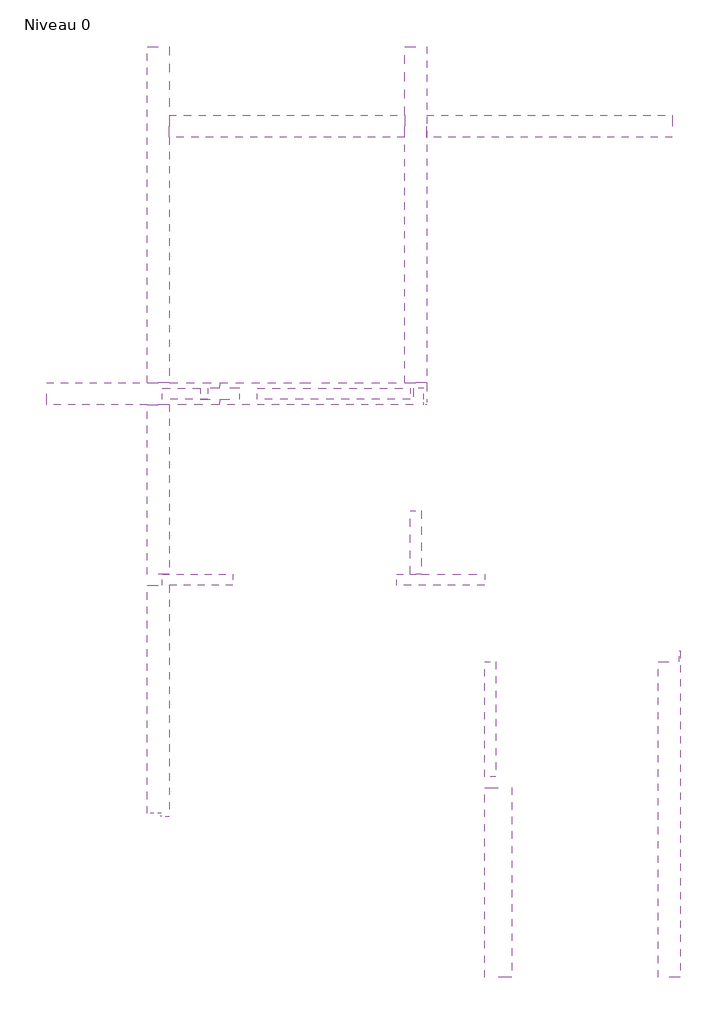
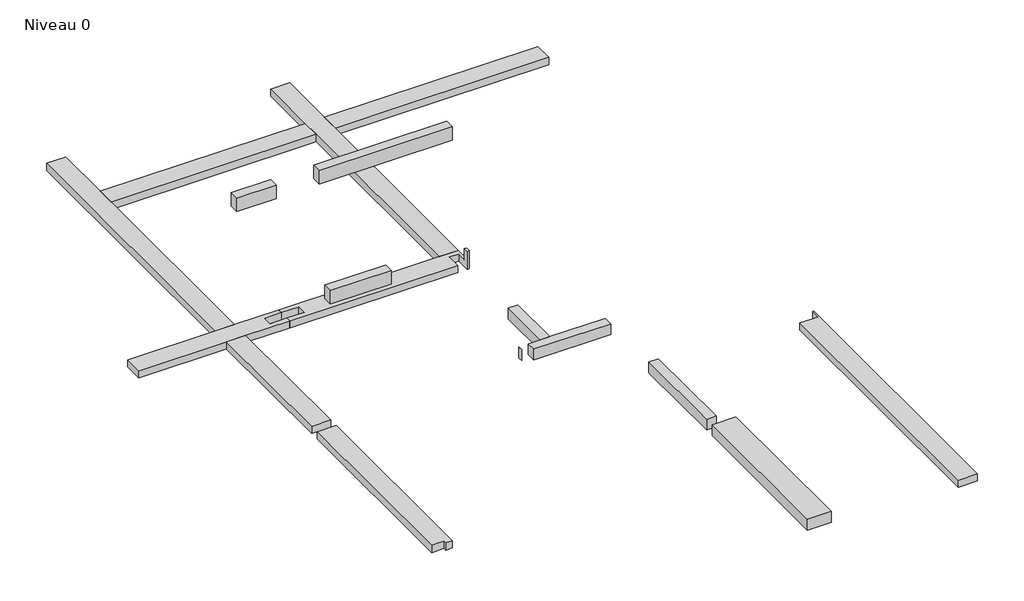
# One storey: 16 beams.
"""IFC4 building model written with IfcOpenShell, lengths in millimetres."""

import ifcopenshell
import ifcopenshell.guid

model = None  # the IFC model being written
_history = None  # IfcOwnerHistory: only IFC2X3 demands one
_inside = {}  # id of a spatial element -> (the spatial element, [elements in it])
_under = {}  # id of a project, library or spatial element -> (it, [spatial elements below it])
_declared = {}  # id of a project -> (the project, [libraries it declares])
_typed = {}  # id of a type object -> (the type object, [elements of that type])
_made_of = {}  # id of a material, layer set ... -> (it, [elements and type objects made of it])


def new_model(schema):
    """Start an empty IFC model of exactly this schema.

    Asked for "IFC4X3", IfcOpenShell would pick the latest addendum, in which some entities
    have other attributes; the version numbers below select the first issue.
    IFC2X3 requires an IfcOwnerHistory on every rooted entity: one is made here for all.
    """
    global model, _history
    if schema == "IFC4X3":
        model = ifcopenshell.file(schema_version=(4, 3, 0, 0))
    else:
        model = ifcopenshell.file(schema=schema)
    _inside.clear()
    _under.clear()
    _declared.clear()
    _typed.clear()
    _made_of.clear()
    _history = None
    if model.schema == "IFC2X3":
        org = make("IfcOrganization", Name="unknown")
        user = make(
            "IfcPersonAndOrganization",
            ThePerson=make("IfcPerson", FamilyName="unknown"),
            TheOrganization=org,
        )
        app = make(
            "IfcApplication",
            ApplicationDeveloper=org,
            Version="unknown",
            ApplicationFullName="unknown",
            ApplicationIdentifier="unknown",
        )
        _history = make(
            "IfcOwnerHistory",
            OwningUser=user,
            OwningApplication=app,
            ChangeAction="ADDED",
            CreationDate=0,
        )
    return model


def make(cls, **values):
    """One entity of the class cls with the attributes given. An attribute that is None is left unset."""
    return model.create_entity(
        cls, **{name: value for name, value in values.items() if value is not None}
    )


def rooted(cls, **values):
    """An entity with a GlobalId (a new one), such as an element, a storey or a relation."""
    return make(cls, GlobalId=ifcopenshell.guid.new(), OwnerHistory=_history, **values)


def si_unit(unit_type, name, prefix=None):
    """IfcSIUnit, for example si_unit("LENGTHUNIT", "METRE", prefix="MILLI")."""
    return make("IfcSIUnit", UnitType=unit_type, Prefix=prefix, Name=name)


def assignment(units):
    """IfcUnitAssignment: the units of a project."""
    return None if units is None else make("IfcUnitAssignment", Units=units)


def point(xyz):
    """IfcCartesianPoint."""
    return None if xyz is None else make("IfcCartesianPoint", Coordinates=xyz)


def direction(xyz):
    """IfcDirection."""
    return None if xyz is None else make("IfcDirection", DirectionRatios=xyz)


def frame(location, z_axis=None, x_axis=None):
    """IfcAxis2Placement3D, a coordinate frame: its origin and axes. An axis left out is left unset."""
    return make(
        "IfcAxis2Placement3D",
        Location=point(location),
        Axis=direction(z_axis),
        RefDirection=direction(x_axis),
    )


def origin():
    """The frame at (0, 0, 0) with its axes left unset."""
    return frame((0.0, 0.0, 0.0))


def place(relative_to, where):
    """IfcLocalPlacement: puts the frame where relative to a parent placement (None: the world)."""
    return make(
        "IfcLocalPlacement", PlacementRelTo=relative_to, RelativePlacement=where
    )


def context(
    kind, dimensions, precision=None, world=None, true_north=None, identifier=None
):
    """IfcGeometricRepresentationContext, for example the 3D "Model" context."""
    return make(
        "IfcGeometricRepresentationContext",
        ContextIdentifier=identifier,
        ContextType=kind,
        CoordinateSpaceDimension=dimensions,
        Precision=precision,
        WorldCoordinateSystem=world,
        TrueNorth=true_north,
    )


def project(units=None, contexts=None):
    """IfcProject with its units and contexts."""
    return rooted(
        "IfcProject",
        Name="project",
        RepresentationContexts=contexts,
        UnitsInContext=assignment(units),
    )


def spatial(cls, under=None, at=None, **own):
    """A site, building, storey or space (cls), placed at a placement, below another one or the project."""
    s = rooted(cls, ObjectPlacement=at, **own)
    if under is not None:
        _under.setdefault(under.id(), (under, []))[1].append(s)
    return s


def polyline(points):
    """IfcPolyline through the points."""
    return make("IfcPolyline", Points=[point(p) for p in points])


def outline(outer, holes=None, kind="AREA"):
    """IfcArbitraryClosedProfileDef: a profile drawn as a closed curve; with holes, ...WithVoids."""
    if holes is None:
        return make("IfcArbitraryClosedProfileDef", ProfileType=kind, OuterCurve=outer)
    return make(
        "IfcArbitraryProfileDefWithVoids",
        ProfileType=kind,
        OuterCurve=outer,
        InnerCurves=holes,
    )


def extrude(swept, where, along, depth):
    """IfcExtrudedAreaSolid: the profile swept, set in the frame where, extruded along a direction by depth."""
    return make(
        "IfcExtrudedAreaSolid",
        SweptArea=swept,
        Position=where,
        ExtrudedDirection=direction(along),
        Depth=depth,
    )


def faces_of(points, faces, orient=None, outer=None):
    """IfcFace entities. A face is a list of loops; a loop is a list of indices into points, from 0.

    orient and outer hold one flag for each loop. By default every Orientation is true, the
    first loop of a face is its IfcFaceOuterBound and the others are IfcFaceBound.
    """
    made = []
    for i, loops in enumerate(faces):
        bounds = []
        for j, loop in enumerate(loops):
            is_outer = j == 0 if outer is None else outer[i][j]
            bounds.append(
                make(
                    "IfcFaceOuterBound" if is_outer else "IfcFaceBound",
                    Bound=make("IfcPolyLoop", Polygon=[points[k] for k in loop]),
                    Orientation=True if orient is None else orient[i][j],
                )
            )
        made.append(make("IfcFace", Bounds=bounds))
    return made


def faceted_brep(points, faces, orient=None, outer=None, voids=None):
    """IfcFacetedBrep: a solid bounded by flat faces; with voids (closed shells), ...WithVoids."""
    shared = [point(p) for p in points]
    hull = make("IfcClosedShell", CfsFaces=faces_of(shared, faces, orient, outer))
    if voids is None:
        return make("IfcFacetedBrep", Outer=hull)
    return make(
        "IfcFacetedBrepWithVoids",
        Outer=hull,
        Voids=[
            make(cls, CfsFaces=faces_of(shared, fs, o, b)) for cls, fs, o, b in voids
        ],
    )


def shape(context_of_items, identifier, shape_type, items):
    """IfcShapeRepresentation: the items that make up one representation, for example the "Body"."""
    return make(
        "IfcShapeRepresentation",
        ContextOfItems=context_of_items,
        RepresentationIdentifier=identifier,
        RepresentationType=shape_type,
        Items=items,
    )


def made_of(thing, what):
    """Note that an element or type object is made of a material, layer set ...; save() writes the relation."""
    if what is not None:
        _made_of.setdefault(what.id(), (what, []))[1].append(thing)
    return thing


def element(
    cls,
    number,
    at=None,
    inside=None,
    cuts=None,
    type_object=None,
    material=None,
    context=None,
    identifier="Body",
    shape_type=None,
    held_by="IfcProductDefinitionShape",
    body=None,
    shapes=None,
    **own,
):
    """One element of the class cls, such as IfcWall. Its Tag is "e" and its number.

    at: its placement. inside: the storey or other place that contains it. cuts: it is an
    opening in that element (IfcRelVoidsElement). A single representation is given by context,
    identifier, shape_type and body (its items); several are given by shapes. held_by: the class
    of the entity that holds the representations. save() writes the other relations.
    """
    e = rooted(cls, Tag="e%d" % number, ObjectPlacement=at, **own)
    if body is not None:
        shapes = [shape(context, identifier, shape_type, body)]
    if shapes is not None:
        e.Representation = make(held_by, Representations=shapes)
    if inside is not None:
        _inside.setdefault(inside.id(), (inside, []))[1].append(e)
    if cuts is not None:
        rooted(
            "IfcRelVoidsElement", RelatingBuildingElement=cuts, RelatedOpeningElement=e
        )
    if type_object is not None:
        _typed.setdefault(type_object.id(), (type_object, []))[1].append(e)
    return made_of(e, material)


def aggregate(whole, parts):
    """IfcRelAggregates: a whole, such as a stair, and the parts it consists of."""
    return rooted("IfcRelAggregates", RelatingObject=whole, RelatedObjects=parts)


def save(model, path):
    """Write the relations noted so far, then the file.

    IfcRelAggregates (storeys below a building ...), IfcRelContainedInSpatialStructure (elements
    in a storey), IfcRelDefinesByType, IfcRelAssociatesMaterial and IfcRelDeclares: one each for
    every whole, place, type object, material and project.
    """
    for whole, parts in _under.values():
        aggregate(whole, parts)
    for where, things in _inside.values():
        rooted(
            "IfcRelContainedInSpatialStructure",
            RelatedElements=things,
            RelatingStructure=where,
        )
    for kind, things in _typed.values():
        rooted("IfcRelDefinesByType", RelatedObjects=things, RelatingType=kind)
    for what, things in _made_of.values():
        rooted("IfcRelAssociatesMaterial", RelatedObjects=things, RelatingMaterial=what)
    for by, libraries in _declared.values():
        rooted("IfcRelDeclares", RelatingContext=by, RelatedDefinitions=libraries)
    model.write(path)


model = new_model("IFC4")

# Units and contexts
model_context = context("Model", 3, world=origin())
ifc_project = project(units=[si_unit("LENGTHUNIT", "METRE", prefix="MILLI")], contexts=[model_context])

# Site, building, storey
site = spatial("IfcSite", under=ifc_project)
building = spatial("IfcBuilding", under=site)
storey = spatial("IfcBuildingStorey", under=building, Name="Niveau 0", Elevation=-70.0)

# Beams
placement = place(None, origin())
element("IfcBeam", 1, ObjectType="Béton - Poutre rectangulaire : 200 x 240", at=placement, inside=storey, context=model_context, shape_type="Brep", body=[
    faceted_brep([(-4257.691895, -124.0968949, 17480.0), (-4257.691895, -324.0968949, 17480.0), (-2647.6920341, -324.0968949, 17480.0), (-2647.6920341, -124.0968949, 17480.0), (-3807.6828669, -124.0968949, 17480.0), (-4007.6828669, -124.0968949, 17480.0), (-2647.6920341, -324.0968949, 17240.0), (-4257.691895, -324.0968949, 17240.0), (-4257.691895, -124.0968949, 17240.0), (-4007.6828669, -124.0968949, 17240.0), (-3807.6828669, -124.0968949, 17240.0), (-2647.6920341, -124.0968949, 17240.0)], [[[0, 1, 2, 3, 4, 5]], [[6, 2, 1, 7]], [[7, 8, 9, 10, 11, 6]], [[8, 0, 5, 4, 3, 11, 10, 9]], [[0, 8, 7, 1]], [[3, 2, 6, 11]]]),
    faceted_brep([(-4460.0848034, -124.0968949, 17480.0), (-4460.0848034, -124.0968949, 17240.0), (-4460.0848034, -224.0968949, 17240.0), (-4460.0848034, -224.0968949, 17480.0), (-4457.691895, -224.0968949, 17480.0), (-4457.691895, -224.0968949, 17240.0), (-4457.691895, -124.0968949, 17480.0), (-4457.691895, -124.0968949, 17240.0)], [[[0, 1, 2, 3]], [[4, 3, 2, 5]], [[6, 4, 5, 7]], [[0, 3, 4, 6]], [[2, 1, 7, 5]], [[1, 0, 6, 7]]]),
])
element("IfcBeam", 2, ObjectType="Béton - Poutre rectangulaire : 200 x 240", at=placement, inside=storey, context=model_context, shape_type="SweptSolid", body=[
    extrude(outline(polyline([(-4007.6828669, 1035.9031051), (-3807.6828669, 1035.9031051), (-3807.6828669, -124.0968949), (-4007.6828669, -124.0968949), (-4007.6828669, 1035.9031051)])), frame((0.0, 0.0, 17240.0), z_axis=(0.0, 0.0, 1.0), x_axis=(1.0, 0.0, 0.0)), (0.0, 0.0, 1.0), 240.0),
])
element("IfcBeam", 3, ObjectType="Béton - Poutre rectangulaire : 200 x 240", at=placement, inside=storey, context=model_context, shape_type="SweptSolid", body=[
    extrude(outline(polyline([(-2447.6920341, -3824.0968949), (-2647.6920341, -3824.0968949), (-2647.6920341, -1724.0968949), (-2447.6920341, -1724.0968949), (-2447.6920341, -3824.0968949)])), frame((0.0, 0.0, 17240.0), z_axis=(0.0, 0.0, 1.0), x_axis=(1.0, 0.0, 0.0)), (0.0, 0.0, 1.0), 240.0),
])
element("IfcBeam", 4, ObjectType="Béton - Poutre rectangulaire : 200 x 300", at=placement, inside=storey, context=model_context, shape_type="SweptSolid", body=[
    extrude(outline(polyline([(-6807.6920341, 3075.9031051), (-6807.6920341, 3275.9031051), (-4007.6828669, 3275.9031051), (-4007.6828669, 3075.9031051), (-6807.6920341, 3075.9031051)])), frame((0.0, 0.0, 19980.0), z_axis=(0.0, 0.0, 1.0), x_axis=(1.0, 0.0, 0.0)), (0.0, 0.0, 1.0), 300.0),
])
element("IfcBeam", 5, ObjectType="Béton - Poutre rectangulaire : 200 x 300", at=placement, inside=storey, context=model_context, shape_type="SweptSolid", body=[
    extrude(outline(polyline([(-7707.6920341, 3275.9031051), (-7707.6920341, 3075.9031051), (-8537.6920341, 3075.9031051), (-8537.6920341, 3275.9031051), (-7707.6920341, 3275.9031051)])), frame((0.0, 0.0, 19980.0), z_axis=(0.0, 0.0, 1.0), x_axis=(1.0, 0.0, 0.0)), (0.0, 0.0, 1.0), 300.0),
])
element("IfcBeam", 6, ObjectType="Béton - Poutre rectangulaire : 200 x 300", at=placement, inside=storey, context=model_context, shape_type="SweptSolid", body=[
    extrude(outline(polyline([(-7257.6920341, -124.0968949), (-7257.6920341, -324.0968949), (-8537.6920341, -324.0968949), (-8537.6920341, -124.0968949), (-7257.6920341, -124.0968949)])), frame((0.0, 0.0, 19980.0), z_axis=(0.0, 0.0, 1.0), x_axis=(1.0, 0.0, 0.0)), (0.0, 0.0, 1.0), 300.0),
])
element("IfcBeam", 7, ObjectType="Béton - Poutre rectangulaire : 400 x 400", at=placement, inside=storey, context=model_context, shape_type="Brep", body=[
    faceted_brep([(-3757.691895, 2975.9031051, 17480.0), (-3707.6828669, 2975.9031051, 17480.0), (-3707.6828669, 3075.9030834, 17480.0), (-3757.691895, 3075.9030834, 17480.0), (-3707.6828669, 2975.9031051, 17080.0), (-3757.691895, 2975.9031051, 17080.0), (-7127.691895, 3075.9031051, 17080.0), (-7127.691895, 3275.9031051, 17080.0), (-7487.691895, 3275.9031051, 17080.0), (-7487.691895, 3375.9031051, 17080.0), (-4107.6828669, 3375.9031051, 17080.0), (-3707.6828669, 3375.9031051, 17080.0), (-3757.691895, 3275.9031051, 17080.0), (-3957.691895, 3275.9031051, 17080.0), (-3957.691895, 2975.9031051, 17080.0), (-7487.691895, 2975.9031051, 17080.0), (-7487.691895, 3075.9031051, 17080.0), (-7487.691895, 3375.9031051, 17240.0), (-6027.691895, 3375.9031051, 17240.0), (-5627.691895, 3375.9031051, 17240.0), (-4107.6828669, 3375.9031051, 17240.0), (-3707.6828669, 3375.9031051, 17240.0), (-7127.691895, 3075.9031051, 17240.0), (-7127.691895, 3275.9031051, 17240.0), (-7487.691895, 3275.9031051, 17240.0), (-7487.691895, 3075.9031051, 17240.0), (-3957.691895, 3275.9031051, 17240.0), (-3957.691895, 2975.9031051, 17240.0), (-3757.691895, 3275.9031051, 17240.0), (-3757.691895, 3075.9030834, 17240.0), (-3707.6828669, 3075.9030834, 17240.0), (-7487.691895, 2975.9031051, 17240.0)], [[[0, 1, 2, 3]], [[4, 1, 0, 5]], [[6, 7, 8, 9, 10, 11, 4, 5, 12, 13, 14, 15, 16]], [[11, 10, 9, 17, 18, 19, 20, 21]], [[7, 6, 22, 23]], [[8, 7, 23, 24]], [[6, 16, 25, 22]], [[14, 13, 26, 27]], [[13, 12, 28, 26]], [[29, 30, 21, 20, 19, 18, 17, 24, 23, 22, 25, 31, 27, 26, 28]], [[9, 8, 24, 17]], [[1, 4, 11, 21, 30, 2]], [[16, 15, 31, 25]], [[5, 0, 3, 29, 28, 12]], [[15, 14, 27, 31]], [[30, 29, 3, 2]]]),
])
element("IfcBeam", 8, ObjectType="Béton - Poutre rectangulaire : 400 x 400", at=placement, inside=storey, context=model_context, shape_type="Brep", body=[
    faceted_brep([(-7487.691895, 3375.9031051, 17080.0), (-8417.6920341, 3375.9031051, 17080.0), (-8817.6920341, 3375.9031051, 17080.0), (-10657.691895, 3375.9031051, 17080.0), (-10657.691895, 3375.9031051, 17240.0), (-8817.6920341, 3375.9031051, 17240.0), (-8417.6920341, 3375.9031051, 17240.0), (-7487.691895, 3375.9031051, 17240.0), (-7487.691895, 3275.9031051, 17080.0), (-7847.691895, 3275.9031051, 17080.0), (-7847.691895, 3075.9031051, 17080.0), (-7487.691895, 3075.9031051, 17080.0), (-7487.691895, 2975.9031051, 17080.0), (-8417.6920341, 2975.9031051, 17080.0), (-8817.6920341, 2975.9031051, 17080.0), (-10657.691895, 2975.9031051, 17080.0), (-7487.691895, 2975.9031051, 17240.0), (-8417.6920341, 2975.9031051, 17240.0), (-8817.6920341, 2975.9031051, 17240.0), (-10657.691895, 2975.9031051, 17240.0), (-7487.691895, 3075.9031051, 17240.0), (-7487.691895, 3275.9031051, 17240.0), (-7847.691895, 3275.9031051, 17240.0), (-7847.691895, 3075.9031051, 17240.0)], [[[0, 1, 2, 3, 4, 5, 6, 7]], [[0, 8, 9, 10, 11, 12, 13, 14, 15, 3, 2, 1]], [[15, 14, 13, 12, 16, 17, 18, 19]], [[12, 11, 20, 16]], [[9, 8, 21, 22]], [[10, 9, 22, 23]], [[11, 10, 23, 20]], [[8, 0, 7, 21]], [[4, 3, 15, 19]], [[4, 19, 18, 17, 16, 20, 23, 22, 21, 7, 6, 5]]]),
])
element("IfcBeam", 9, ObjectType="Béton - Poutre rectangulaire : 400 x 400", at=placement, inside=storey, context=model_context, shape_type="Brep", body=[
    faceted_brep([(-8817.6920341, -324.0968949, 17240.0), (-8817.6920341, -324.0968949, 17080.0), (-8817.6920341, -4494.0969166, 17080.0), (-8817.6920341, -4494.0969166, 17240.0), (-8417.6920341, -324.0968949, 17080.0), (-8417.6920341, -4554.0969166, 17080.0), (-8557.691895, -4554.0969166, 17080.0), (-8557.691895, -4494.0969166, 17080.0), (-8417.6920341, -324.0968949, 17240.0), (-8417.6920341, -4554.0969166, 17240.0), (-8557.691895, -4554.0969166, 17240.0), (-8697.6920341, -4494.0969166, 17240.0), (-8557.691895, -4494.0969166, 17240.0)], [[[0, 1, 2, 3]], [[4, 5, 6, 7, 2, 1]], [[5, 4, 8, 9]], [[5, 9, 10, 6]], [[1, 0, 8, 4]], [[9, 8, 0, 3, 11, 12, 10]], [[7, 12, 11, 3, 2]], [[12, 7, 6, 10]]]),
])
element("IfcBeam", 10, ObjectType="Béton - Poutre rectangulaire : 400 x 400", at=placement, inside=storey, context=model_context, shape_type="SweptSolid", body=[
    extrude(outline(polyline([(-8417.6920341, -124.0968949), (-8817.6920341, -124.0968949), (-8817.6920341, 2975.9031051), (-8417.6920341, 2975.9031051), (-8417.6920341, -124.0968949)])), frame((0.0, 0.0, 17080.0), z_axis=(0.0, 0.0, 1.0), x_axis=(1.0, 0.0, 0.0)), (0.0, 0.0, 1.0), 160.0),
])
element("IfcBeam", 11, ObjectType="Béton - Poutre rectangulaire : 400 x 400", at=placement, inside=storey, context=model_context, shape_type="Brep", body=[
    faceted_brep([(-8417.6920341, 9525.9030834, 17080.0), (-8417.6920341, 9525.9030834, 17240.0), (-8417.6920341, 8265.9030834, 17240.0), (-8417.6920341, 7865.9030834, 17240.0), (-8417.6920341, 3375.9031051, 17240.0), (-8417.6920341, 3375.9031051, 17080.0), (-8417.6920341, 7865.9030834, 17080.0), (-8417.6920341, 8265.9030834, 17080.0), (-8817.6920341, 9525.9030834, 17080.0), (-8817.6920341, 3375.9031051, 17080.0), (-8817.6920341, 9525.9030834, 17240.0), (-8817.6920341, 3375.9031051, 17240.0)], [[[0, 1, 2, 3, 4, 5, 6, 7]], [[8, 0, 7, 6, 5, 9]], [[10, 8, 9, 11]], [[1, 0, 8, 10]], [[4, 11, 9, 5]], [[10, 11, 4, 3, 2, 1]]]),
])
element("IfcBeam", 12, ObjectType="Béton - Poutre rectangulaire : 400 x 400", at=placement, inside=storey, context=model_context, shape_type="Brep", body=[
    faceted_brep([(-3707.6828669, 9525.9030834, 17080.0), (-3707.6828669, 9525.9030834, 17240.0), (-3707.6828669, 3375.9031051, 17240.0), (-3707.6828669, 3375.9031051, 17080.0), (-4107.6828669, 9525.9030834, 17080.0), (-4107.6828669, 3375.9031051, 17080.0), (-4107.6828669, 7865.9030834, 17080.0), (-4107.6828669, 8265.9030834, 17080.0), (-4107.6828669, 9525.9030834, 17240.0), (-4107.6828669, 3375.9031051, 17240.0), (-4107.6828669, 7865.9030834, 17240.0), (-4107.6828669, 8265.9030834, 17240.0)], [[[0, 1, 2, 3]], [[4, 0, 3, 5, 6, 7]], [[8, 4, 7, 6, 5, 9, 10, 11]], [[1, 0, 4, 8]], [[1, 8, 11, 10, 9, 2]], [[3, 2, 9, 5]]]),
])
element("IfcBeam", 13, ObjectType="Béton - Poutre rectangulaire : 400 x 400", at=placement, inside=storey, context=model_context, shape_type="SweptSolid", body=[
    extrude(outline(polyline([(-4107.6828669, 8265.9030834), (-4107.6828669, 7865.9030834), (-8417.6920341, 7865.9030834), (-8417.6920341, 8265.9030834), (-4107.6828669, 8265.9030834)])), frame((0.0, 0.0, 17080.0), z_axis=(0.0, 0.0, 1.0), x_axis=(1.0, 0.0, 0.0)), (0.0, 0.0, 1.0), 160.0),
])
element("IfcBeam", 14, ObjectType="Béton - Poutre rectangulaire : 400 x 400", at=placement, inside=storey, context=model_context, shape_type="SweptSolid", body=[
    extrude(outline(polyline([(782.3079659, 7865.9030834), (-3707.6828669, 7865.9030834), (-3707.6828669, 8265.9030834), (782.3079659, 8265.9030834), (782.3079659, 7865.9030834)])), frame((0.0, 0.0, 17080.0), z_axis=(0.0, 0.0, 1.0), x_axis=(1.0, 0.0, 0.0)), (0.0, 0.0, 1.0), 160.0),
])
element("IfcBeam", 15, ObjectType="Béton - Poutre rectangulaire : 400 x 400", at=placement, inside=storey, context=model_context, shape_type="SweptSolid", body=[
    extrude(outline(polyline([(527.3079659, -1724.0968949), (912.3079659, -1724.0968949), (912.3079659, -1524.0968949), (927.3079659, -1524.0968949), (927.3079659, -7494.0969166), (527.3079659, -7494.0969166), (527.3079659, -1724.0968949)])), frame((0.0, 0.0, 17080.0), z_axis=(0.0, 0.0, 1.0), x_axis=(1.0, 0.0, 0.0)), (0.0, 0.0, 1.0), 160.0),
])
element("IfcBeam", 16, ObjectType="Béton - Poutre rectangulaire : 500 x 240", at=placement, inside=storey, context=model_context, shape_type="SweptSolid", body=[
    extrude(outline(polyline([(-2647.6920341, -4024.0968949), (-2147.6920341, -4024.0968949), (-2147.6920341, -7494.0969166), (-2647.6920341, -7494.0969166), (-2647.6920341, -4024.0968949)])), frame((0.0, 0.0, 17240.0), z_axis=(0.0, 0.0, 1.0), x_axis=(1.0, 0.0, 0.0)), (0.0, 0.0, 1.0), 240.0),
])

save(model, "model.ifc")
